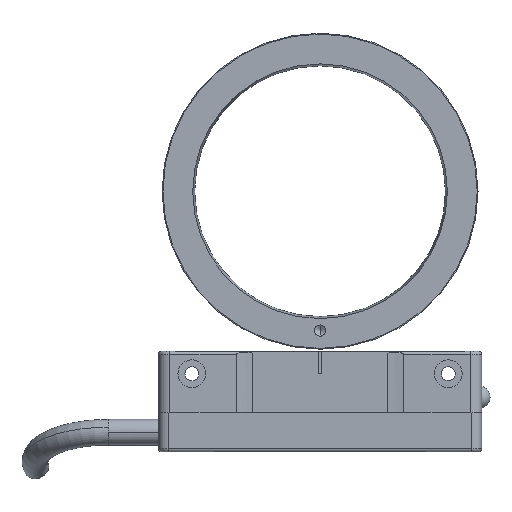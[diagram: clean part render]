
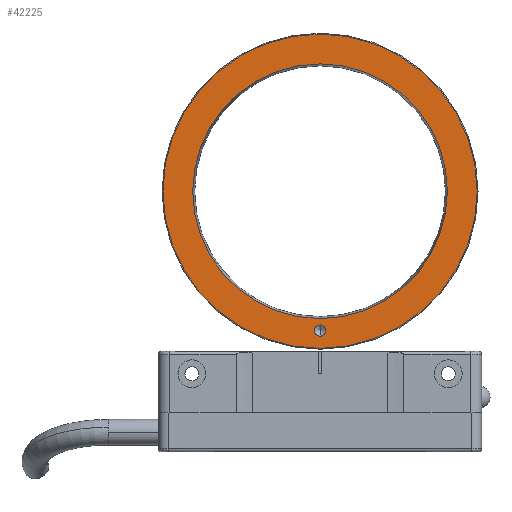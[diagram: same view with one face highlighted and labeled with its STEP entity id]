
A CAD part, front view. The second image highlights one B-rep face of the part: STEP entity #42225.
In plain terms, the highlighted planar face has unit normal (0, -1, 0).
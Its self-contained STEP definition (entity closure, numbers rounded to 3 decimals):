
#376 = DIRECTION ( 'NONE',  ( 0., -1., 0. ) ) ;
#2123 = AXIS2_PLACEMENT_3D ( 'NONE', #31305, #376, #46543 ) ;
#3414 = CIRCLE ( 'NONE', #51968, 22.853 ) ;
#3594 = VERTEX_POINT ( 'NONE', #79202 ) ;
#3888 = EDGE_CURVE ( 'NONE', #36957, #32187, #43951, .T. ) ;
#6335 = DIRECTION ( 'NONE',  ( 0., 0., -1. ) ) ;
#11588 = DIRECTION ( 'NONE',  ( 0., 0., -1. ) ) ;
#12127 = VERTEX_POINT ( 'NONE', #23356 ) ;
#14119 = DIRECTION ( 'NONE',  ( 0., -1., 0. ) ) ;
#14789 = ORIENTED_EDGE ( 'NONE', *, *, #40669, .F. ) ;
#18120 = ORIENTED_EDGE ( 'NONE', *, *, #42352, .T. ) ;
#19562 = EDGE_CURVE ( 'NONE', #12127, #82297, #33603, .T. ) ;
#23355 = EDGE_CURVE ( 'NONE', #32187, #36957, #86211, .T. ) ;
#23356 = CARTESIAN_POINT ( 'NONE',  ( 0., 0., -22.853 ) ) ;
#27241 = AXIS2_PLACEMENT_3D ( 'NONE', #54541, #54039, #6335 ) ;
#27283 = FACE_OUTER_BOUND ( 'NONE', #91480, .T. ) ;
#29255 = DIRECTION ( 'NONE',  ( 0., 0., -1. ) ) ;
#30333 = DIRECTION ( 'NONE',  ( 0., 0., -1. ) ) ;
#31305 = CARTESIAN_POINT ( 'NONE',  ( 0., 0., -25. ) ) ;
#32187 = VERTEX_POINT ( 'NONE', #67866 ) ;
#32900 = DIRECTION ( 'NONE',  ( 0., -1., 0. ) ) ;
#33603 = CIRCLE ( 'NONE', #100665, 22.853 ) ;
#36162 = PLANE ( 'NONE',  #43958 ) ;
#36957 = VERTEX_POINT ( 'NONE', #101211 ) ;
#38377 = DIRECTION ( 'NONE',  ( 0., 0., -1. ) ) ;
#40669 = EDGE_CURVE ( 'NONE', #82297, #12127, #3414, .T. ) ;
#41505 = EDGE_LOOP ( 'NONE', ( #89529, #14789 ) ) ;
#41622 = DIRECTION ( 'NONE',  ( 0., -1., 0. ) ) ;
#42225 = ADVANCED_FACE ( 'NONE', ( #57370, #76059, #27283 ), #36162, .T. ) ;
#42352 = EDGE_CURVE ( 'NONE', #3594, #67328, #57384, .T. ) ;
#43951 = CIRCLE ( 'NONE', #2123, 1. ) ;
#43958 = AXIS2_PLACEMENT_3D ( 'NONE', #51389, #41622, #11588 ) ;
#44080 = CARTESIAN_POINT ( 'NONE',  ( 0., 0., 28.2 ) ) ;
#46543 = DIRECTION ( 'NONE',  ( 0., 0., -1. ) ) ;
#48696 = CARTESIAN_POINT ( 'NONE',  ( 0., 0., 0. ) ) ;
#51077 = CIRCLE ( 'NONE', #97959, 28.2 ) ;
#51389 = CARTESIAN_POINT ( 'NONE',  ( 28.4, 0., 0. ) ) ;
#51968 = AXIS2_PLACEMENT_3D ( 'NONE', #48696, #32900, #89089 ) ;
#53981 = CARTESIAN_POINT ( 'NONE',  ( 0., 0., -25. ) ) ;
#54039 = DIRECTION ( 'NONE',  ( 0., -1., 0. ) ) ;
#54168 = CARTESIAN_POINT ( 'NONE',  ( 0., 0., 0. ) ) ;
#54541 = CARTESIAN_POINT ( 'NONE',  ( 0., 0., 0. ) ) ;
#56061 = ORIENTED_EDGE ( 'NONE', *, *, #62365, .T. ) ;
#57370 = FACE_BOUND ( 'NONE', #41505, .T. ) ;
#57384 = CIRCLE ( 'NONE', #27241, 28.2 ) ;
#62365 = EDGE_CURVE ( 'NONE', #67328, #3594, #51077, .T. ) ;
#67328 = VERTEX_POINT ( 'NONE', #44080 ) ;
#67866 = CARTESIAN_POINT ( 'NONE',  ( 0., 0., -26. ) ) ;
#71163 = AXIS2_PLACEMENT_3D ( 'NONE', #53981, #14119, #30333 ) ;
#71431 = DIRECTION ( 'NONE',  ( 0., -1., 0. ) ) ;
#71544 = CARTESIAN_POINT ( 'NONE',  ( 0., 0., 22.853 ) ) ;
#75473 = DIRECTION ( 'NONE',  ( 0., -1., 0. ) ) ;
#75912 = EDGE_LOOP ( 'NONE', ( #85580, #89482 ) ) ;
#76059 = FACE_BOUND ( 'NONE', #75912, .T. ) ;
#79202 = CARTESIAN_POINT ( 'NONE',  ( 0., 0., -28.2 ) ) ;
#82297 = VERTEX_POINT ( 'NONE', #71544 ) ;
#85580 = ORIENTED_EDGE ( 'NONE', *, *, #23355, .F. ) ;
#86211 = CIRCLE ( 'NONE', #71163, 1. ) ;
#89089 = DIRECTION ( 'NONE',  ( 0., 0., -1. ) ) ;
#89482 = ORIENTED_EDGE ( 'NONE', *, *, #3888, .F. ) ;
#89529 = ORIENTED_EDGE ( 'NONE', *, *, #19562, .F. ) ;
#91480 = EDGE_LOOP ( 'NONE', ( #18120, #56061 ) ) ;
#97959 = AXIS2_PLACEMENT_3D ( 'NONE', #101151, #75473, #29255 ) ;
#100665 = AXIS2_PLACEMENT_3D ( 'NONE', #54168, #71431, #38377 ) ;
#101151 = CARTESIAN_POINT ( 'NONE',  ( 0., 0., 0. ) ) ;
#101211 = CARTESIAN_POINT ( 'NONE',  ( 0., 0., -24. ) ) ;
